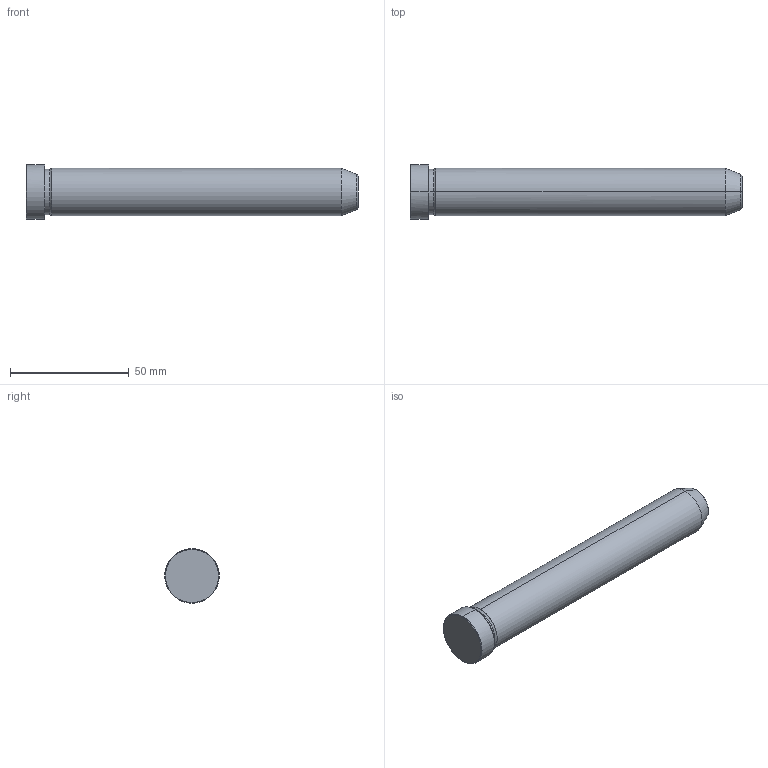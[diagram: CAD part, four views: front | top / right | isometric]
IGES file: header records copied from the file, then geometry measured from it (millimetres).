
Start section: START RECORD GO HERE.
Global section: file name: 549-20X140.igs; native system: DASSAULT SYSTEMES CATIA V5 R20 - www.3ds.com; preprocessor: CATIA Version 5 Release 20 ; author: Utente; organization: NB04-ASUS; date: 20211211.105249; units: millimetre
Bounding box: 140 x 23 x 23 mm (x, y, z)
Surface area: 9515.7 mm2 (no closed solid volume)
Topology: 0 solids, 0 shells, 19 faces, 112 edges, 112 vertices
Faces by surface type: revolution 16, plane 3
